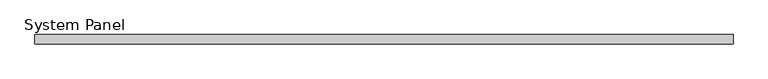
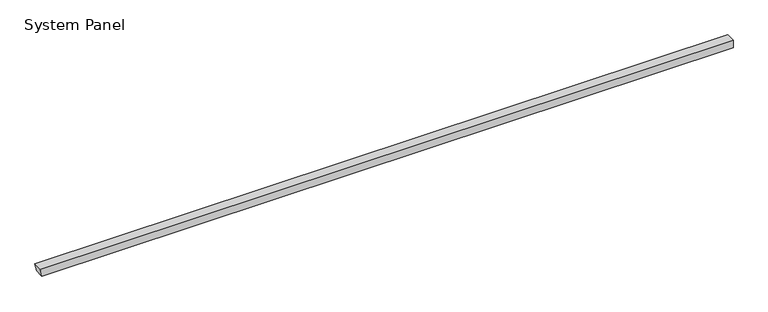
"""IFC4 building model written with IfcOpenShell, lengths in millimetres: plate geometry, System Panel : InsulWall_90mm_Plain_Surfmist."""

from ifc_helpers import new_model, si_unit, frame, origin, place, context, project, spatial, polyline, outline, extrude, source, transform, mapped, element, save


def system_panel_c964174b(model_context):
    return source(origin(), model_context, "Body", "SweptSolid", [
        extrude(outline(polyline([(0.0, -3377.6149856), (0.0, 3395.0), (79.9704237, 3395.0), (79.9704237, -3395.0), (0.0, -3377.6149856)])), frame((0.0, -90.0, 0.0), z_axis=(0.0, 1.0, 0.0), x_axis=(0.0, 0.0, 1.0)), (0.0, 0.0, 1.0), 90.0),
    ])


if __name__ == "__main__":
    model = new_model("IFC4")
    model_context = context("Model", 3, world=origin())
    ifc_project = project(units=[si_unit("LENGTHUNIT", "METRE", prefix="MILLI")], contexts=[model_context])
    site = spatial("IfcSite", under=ifc_project)
    building = spatial("IfcBuilding", under=site)
    placement = place(None, origin())
    system_panel_shape = system_panel_c964174b(model_context)
    element("IfcPlate", 1, ObjectType="System Panel : InsulWall_90mm_Plain_Surfmist", at=placement, inside=building, context=model_context, shape_type="MappedRepresentation", body=[
        mapped(system_panel_shape, transform((0.0, 0.0, 0.0), x_axis=(1.0, 0.0, 0.0), y_axis=(0.0, 1.0, 0.0), z_axis=(0.0, 0.0, 1.0))),
    ])
    save(model, "model.ifc")
